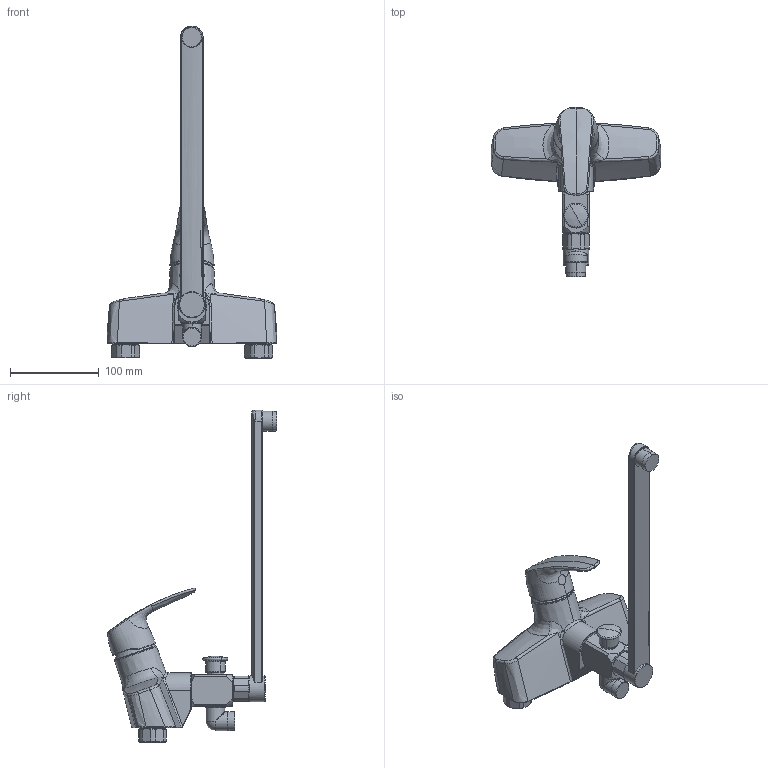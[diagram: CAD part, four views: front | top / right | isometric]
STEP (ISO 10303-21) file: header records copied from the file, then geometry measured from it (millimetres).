
FILE_DESCRIPTION (( 'STEP AP203' ), '1' );
FILE_NAME ('1073(2017).STEP', '2018-04-18T04:32:23', ( '' ), ( '' ), 'SwSTEP 2.0', 'SolidWorks 2016', '' );
FILE_SCHEMA (( 'CONFIG_CONTROL_DESIGN' ));
Length unit declared in the file: millimetre
Products named in the file (1): 1073(2017)
Bounding box: 191.05 x 190.6 x 373.45 mm (x, y, z)
Volume: 734071.3 mm3; surface area: 100807.4 mm2
Topology: 1 solids, 1 shells, 317 faces, 757 edges, 462 vertices
Faces by surface type: bspline 101, cylinder 78, plane 65, cone 60, torus 10, sphere 3
Entity records: 22464 total; most frequent: CARTESIAN_POINT 15860, ORIENTED_EDGE 1504, DIRECTION 1163, EDGE_CURVE 752, AXIS2_PLACEMENT_3D 500, VERTEX_POINT 462, EDGE_LOOP 342, FACE_OUTER_BOUND 317
